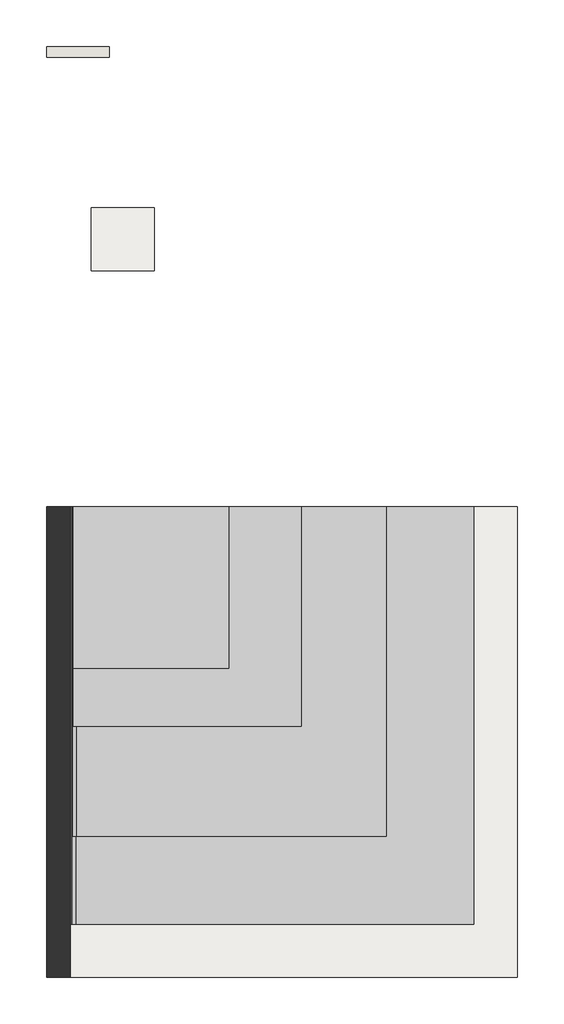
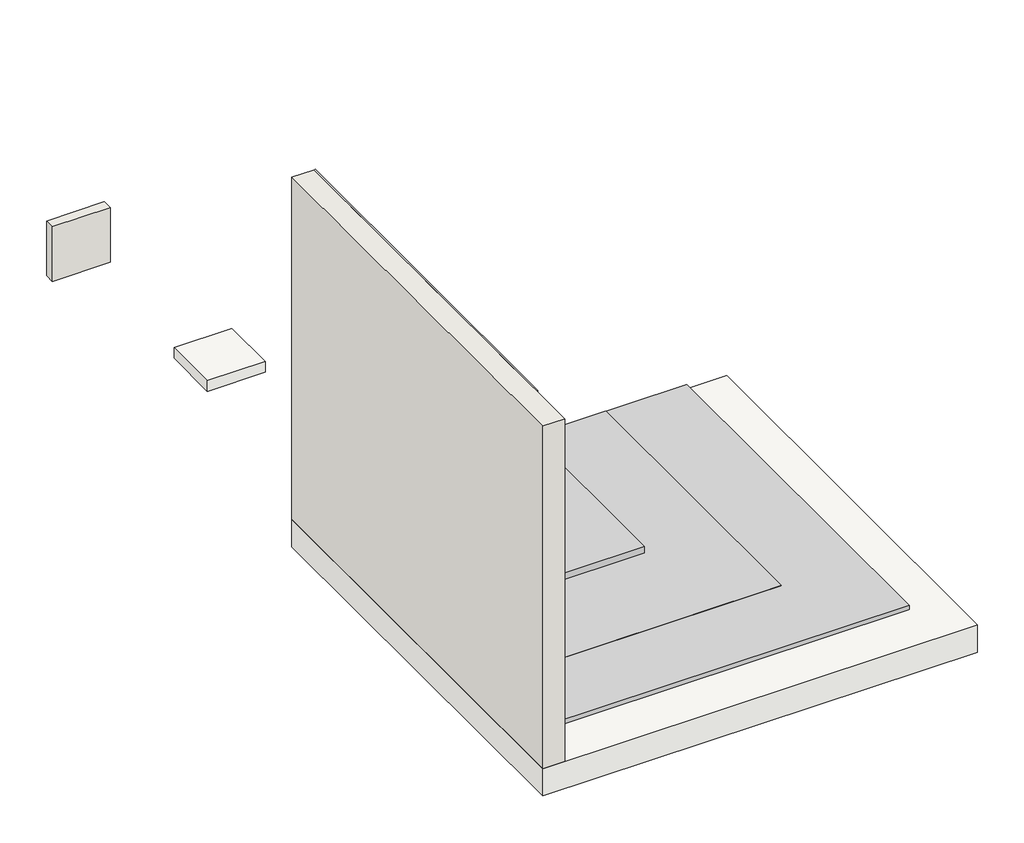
# One storey: 2 slabs, 2 walls, 1 proxy.
"""IFC4 building model written with IfcOpenShell, lengths in millimetres."""

from ifc_helpers import new_model, si_unit, frame, origin, place, context, project, spatial, polyline, outline, extrude, transform, mapped, element, save
from components import generic_models_16d6276a

model = new_model("IFC4")

# Units and contexts
model_context = context("Model", 3, world=origin())
ifc_project = project(units=[si_unit("LENGTHUNIT", "METRE", prefix="MILLI")], contexts=[model_context])

# Site, building, storey
site = spatial("IfcSite", under=ifc_project)
building = spatial("IfcBuilding", under=site)
storey = spatial("IfcBuildingStorey", under=building, Name="ARQ Térreo", Elevation=-2.523798)

# Proxy
placement = place(None, origin())
generic_models_shape = generic_models_16d6276a(model_context)
element("IfcBuildingElementProxy", 1, Name="IMPER:IMPER:433934 : IMPER:IMPER:433934", ObjectType="IMPER:IMPER:433934 : IMPER:IMPER:433934", at=placement, inside=storey, context=model_context, shape_type="MappedRepresentation", body=[
    mapped(generic_models_shape, transform((0.0, 0.0, 0.0), x_axis=(1.0, 0.0, 0.0), y_axis=(0.0, 1.0, 0.0), z_axis=(0.0, 0.0, 1.0))),
])

# Slabs
element("IfcSlab", 2, ObjectType="IMPH_EMULSÃO VIAPOL ANTIRRUIDO", at=placement, inside=storey, context=model_context, shape_type="SweptSolid", body=[
    extrude(outline(polyline([(-216.1419101, 2051.0407158), (183.8580899, 2051.0407158), (183.8580899, 1651.0407158), (-216.1419101, 1651.0407158), (-216.1419101, 2051.0407158)])), frame((0.0, 0.0, -80.523798), z_axis=(0.0, 0.0, 1.0), x_axis=(1.0, 0.0, 0.0)), (0.0, 0.0, 1.0), 78.0),
])
element("IfcSlab", 3, ObjectType="Piso:LAJE CONCRETO", at=placement, inside=storey, context=model_context, shape_type="SweptSolid", body=[
    extrude(outline(polyline([(-501.9704105, 145.8700195), (2498.0295895, 145.8700195), (2498.0295895, -2854.1299805), (-501.9704105, -2854.1299805), (-501.9704105, 145.8700195)])), frame((0.0, 0.0, -202.523798), z_axis=(0.0, 0.0, 1.0), x_axis=(1.0, 0.0, 0.0)), (0.0, 0.0, 1.0), 200.0),
])

# Walls
element("IfcWall", 4, ObjectType="Parede básica:Parede Concreto", at=placement, inside=storey, context=model_context, shape_type="SweptSolid", body=[
    extrude(outline(polyline([(-501.9704105, -2854.1299805), (-501.9704105, 145.8700195), (-351.9704105, 145.8700195), (-351.9704105, -2854.1299805), (-501.9704105, -2854.1299805)])), frame((0.0, 0.0, -2.523798), z_axis=(0.0, 0.0, 1.0), x_axis=(1.0, 0.0, 0.0)), (0.0, 0.0, 1.0), 2500.0),
])
element("IfcWall", 5, ObjectType="IMPV_EMULSÃO CONFORT PLUS", at=placement, inside=storey, context=model_context, shape_type="SweptSolid", body=[
    extrude(outline(polyline([(-101.9704105, 3011.8700195), (-501.9704105, 3011.8700195), (-501.9704105, 3079.8700195), (-101.9704105, 3079.8700195), (-101.9704105, 3011.8700195)])), frame((0.0, 0.0, -2.523798), z_axis=(0.0, 0.0, 1.0), x_axis=(1.0, 0.0, 0.0)), (0.0, 0.0, 1.0), 400.0),
])

save(model, "model.ifc")
